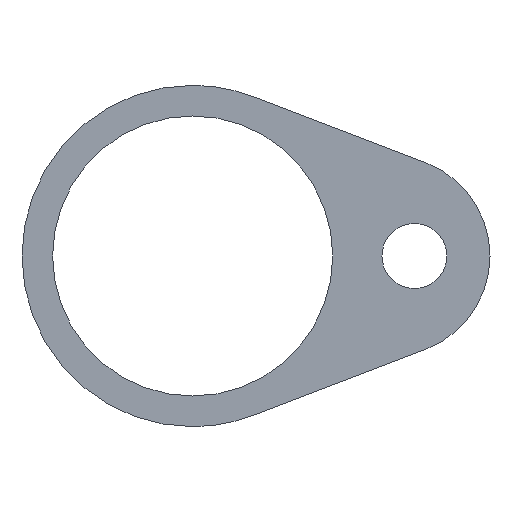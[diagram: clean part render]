
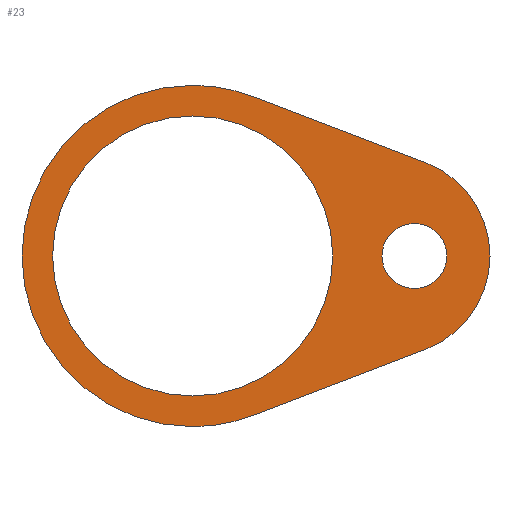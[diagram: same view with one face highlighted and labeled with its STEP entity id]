
A CAD part, front view. The second image highlights one B-rep face of the part: STEP entity #23.
In plain terms, the highlighted planar face has unit normal (0, -1, 0).
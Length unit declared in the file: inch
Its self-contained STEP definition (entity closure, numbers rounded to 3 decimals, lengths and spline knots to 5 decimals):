
#5 = AXIS2_PLACEMENT_3D ( 'NONE', #212, #191, #257 ) ;
#23 = ADVANCED_FACE ( 'NONE', ( #403, #397, #395 ), #246, .F. ) ;
#32 = AXIS2_PLACEMENT_3D ( 'NONE', #124, #121, #120 ) ;
#35 = AXIS2_PLACEMENT_3D ( 'NONE', #132, #131, #130 ) ;
#36 = AXIS2_PLACEMENT_3D ( 'NONE', #135, #134, #133 ) ;
#65 = DIRECTION ( 'NONE',  ( 0., 0., 1. ) ) ;
#66 = DIRECTION ( 'NONE',  ( 0., 1., 0. ) ) ;
#74 = CARTESIAN_POINT ( 'NONE',  ( 0., 0., 0. ) ) ;
#75 = DIRECTION ( 'NONE',  ( 0., 0., 1. ) ) ;
#76 = DIRECTION ( 'NONE',  ( 0., 1., 0. ) ) ;
#82 = CARTESIAN_POINT ( 'NONE',  ( 0., 0., 0. ) ) ;
#96 = DIRECTION ( 'NONE',  ( 0.934, 0., -0.358 ) ) ;
#98 = DIRECTION ( 'NONE',  ( 0., 0., 1. ) ) ;
#99 = DIRECTION ( 'NONE',  ( 0., 1., 0. ) ) ;
#100 = CARTESIAN_POINT ( 'NONE',  ( 0., 0., 0. ) ) ;
#102 = CARTESIAN_POINT ( 'NONE',  ( 0.38256, 0., 0.9966 ) ) ;
#103 = DIRECTION ( 'NONE',  ( 0., 0., 1. ) ) ;
#104 = DIRECTION ( 'NONE',  ( 0., 1., 0. ) ) ;
#105 = DIRECTION ( 'NONE',  ( 0., 0., 1. ) ) ;
#106 = DIRECTION ( 'NONE',  ( 0., 1., 0. ) ) ;
#108 = CARTESIAN_POINT ( 'NONE',  ( 1.387, 0., 0. ) ) ;
#111 = CARTESIAN_POINT ( 'NONE',  ( 1.23476, 0., 0. ) ) ;
#120 = DIRECTION ( 'NONE',  ( 0., 0., 1. ) ) ;
#121 = DIRECTION ( 'NONE',  ( 0., 1., 0. ) ) ;
#123 = DIRECTION ( 'NONE',  ( -0.934, 0., -0.358 ) ) ;
#124 = CARTESIAN_POINT ( 'NONE',  ( 0., 0., 0. ) ) ;
#127 = CARTESIAN_POINT ( 'NONE',  ( 0.38256, 0., -0.9966 ) ) ;
#130 = DIRECTION ( 'NONE',  ( 0., 0., 1. ) ) ;
#131 = DIRECTION ( 'NONE',  ( 0., 1., 0. ) ) ;
#132 = CARTESIAN_POINT ( 'NONE',  ( 0., 0., 0. ) ) ;
#133 = DIRECTION ( 'NONE',  ( 0., 0., 1. ) ) ;
#134 = DIRECTION ( 'NONE',  ( 0., 1., 0. ) ) ;
#135 = CARTESIAN_POINT ( 'NONE',  ( 1.387, 0., 0. ) ) ;
#136 = CARTESIAN_POINT ( 'NONE',  ( 0., 0., -1.0675 ) ) ;
#140 = VERTEX_POINT ( 'NONE', #170 ) ;
#141 = VERTEX_POINT ( 'NONE', #201 ) ;
#149 = VERTEX_POINT ( 'NONE', #206 ) ;
#151 = CARTESIAN_POINT ( 'NONE',  ( 0., 0., -0.87598 ) ) ;
#157 = CARTESIAN_POINT ( 'NONE',  ( 0.38256, 0., 0.9966 ) ) ;
#170 = CARTESIAN_POINT ( 'NONE',  ( 1.45874, 0., 0.58349 ) ) ;
#176 = VERTEX_POINT ( 'NONE', #136 ) ;
#187 = CARTESIAN_POINT ( 'NONE',  ( 0.38256, 0., -0.9966 ) ) ;
#191 = DIRECTION ( 'NONE',  ( 0., 1., 0. ) ) ;
#201 = CARTESIAN_POINT ( 'NONE',  ( 1.387, 0., -0.203 ) ) ;
#206 = CARTESIAN_POINT ( 'NONE',  ( 0., 0., 1.0675 ) ) ;
#209 = CARTESIAN_POINT ( 'NONE',  ( 0., 0., 0.87598 ) ) ;
#210 = CARTESIAN_POINT ( 'NONE',  ( 1.387, 0., 0.203 ) ) ;
#211 = VERTEX_POINT ( 'NONE', #252 ) ;
#212 = CARTESIAN_POINT ( 'NONE',  ( 0., 0., 0. ) ) ;
#228 = VERTEX_POINT ( 'NONE', #151 ) ;
#230 = VERTEX_POINT ( 'NONE', #187 ) ;
#243 = VERTEX_POINT ( 'NONE', #210 ) ;
#244 = VERTEX_POINT ( 'NONE', #157 ) ;
#245 = VERTEX_POINT ( 'NONE', #209 ) ;
#246 = PLANE ( 'NONE',  #5 ) ;
#252 = CARTESIAN_POINT ( 'NONE',  ( 1.45874, 0., -0.58349 ) ) ;
#257 = DIRECTION ( 'NONE',  ( 0., 0., 1. ) ) ;
#264 = AXIS2_PLACEMENT_3D ( 'NONE', #100, #99, #98 ) ;
#265 = AXIS2_PLACEMENT_3D ( 'NONE', #111, #104, #103 ) ;
#267 = AXIS2_PLACEMENT_3D ( 'NONE', #108, #106, #105 ) ;
#273 = EDGE_CURVE ( 'NONE', #243, #141, #381, .T. ) ;
#274 = EDGE_CURVE ( 'NONE', #228, #245, #379, .T. ) ;
#277 = AXIS2_PLACEMENT_3D ( 'NONE', #82, #76, #75 ) ;
#278 = EDGE_CURVE ( 'NONE', #211, #230, #384, .T. ) ;
#279 = EDGE_CURVE ( 'NONE', #245, #228, #375, .T. ) ;
#284 = EDGE_CURVE ( 'NONE', #141, #243, #363, .T. ) ;
#285 = EDGE_CURVE ( 'NONE', #140, #211, #361, .T. ) ;
#287 = EDGE_CURVE ( 'NONE', #176, #149, #356, .T. ) ;
#288 = EDGE_CURVE ( 'NONE', #244, #140, #358, .T. ) ;
#297 = EDGE_CURVE ( 'NONE', #230, #176, #455, .T. ) ;
#310 = EDGE_CURVE ( 'NONE', #149, #244, #467, .T. ) ;
#320 = AXIS2_PLACEMENT_3D ( 'NONE', #74, #66, #65 ) ;
#356 = CIRCLE ( 'NONE', #264, 1.0675 ) ;
#358 = LINE ( 'NONE', #102, #364 ) ;
#361 = CIRCLE ( 'NONE', #265, 0.625 ) ;
#363 = CIRCLE ( 'NONE', #267, 0.203 ) ;
#364 = VECTOR ( 'NONE', #96, 39.37008 ) ;
#375 = CIRCLE ( 'NONE', #32, 0.87598 ) ;
#376 = VECTOR ( 'NONE', #123, 39.37008 ) ;
#379 = CIRCLE ( 'NONE', #35, 0.87598 ) ;
#381 = CIRCLE ( 'NONE', #36, 0.203 ) ;
#384 = LINE ( 'NONE', #127, #376 ) ;
#395 = FACE_BOUND ( 'NONE', #435, .T. ) ;
#397 = FACE_OUTER_BOUND ( 'NONE', #437, .T. ) ;
#403 = FACE_BOUND ( 'NONE', #442, .T. ) ;
#435 = EDGE_LOOP ( 'NONE', ( #491, #492 ) ) ;
#437 = EDGE_LOOP ( 'NONE', ( #485, #486, #487, #488, #489, #490 ) ) ;
#442 = EDGE_LOOP ( 'NONE', ( #483, #484 ) ) ;
#455 = CIRCLE ( 'NONE', #277, 1.0675 ) ;
#467 = CIRCLE ( 'NONE', #320, 1.0675 ) ;
#483 = ORIENTED_EDGE ( 'NONE', *, *, #274, .T. ) ;
#484 = ORIENTED_EDGE ( 'NONE', *, *, #279, .T. ) ;
#485 = ORIENTED_EDGE ( 'NONE', *, *, #297, .F. ) ;
#486 = ORIENTED_EDGE ( 'NONE', *, *, #278, .F. ) ;
#487 = ORIENTED_EDGE ( 'NONE', *, *, #285, .F. ) ;
#488 = ORIENTED_EDGE ( 'NONE', *, *, #288, .F. ) ;
#489 = ORIENTED_EDGE ( 'NONE', *, *, #310, .F. ) ;
#490 = ORIENTED_EDGE ( 'NONE', *, *, #287, .F. ) ;
#491 = ORIENTED_EDGE ( 'NONE', *, *, #284, .T. ) ;
#492 = ORIENTED_EDGE ( 'NONE', *, *, #273, .T. ) ;
